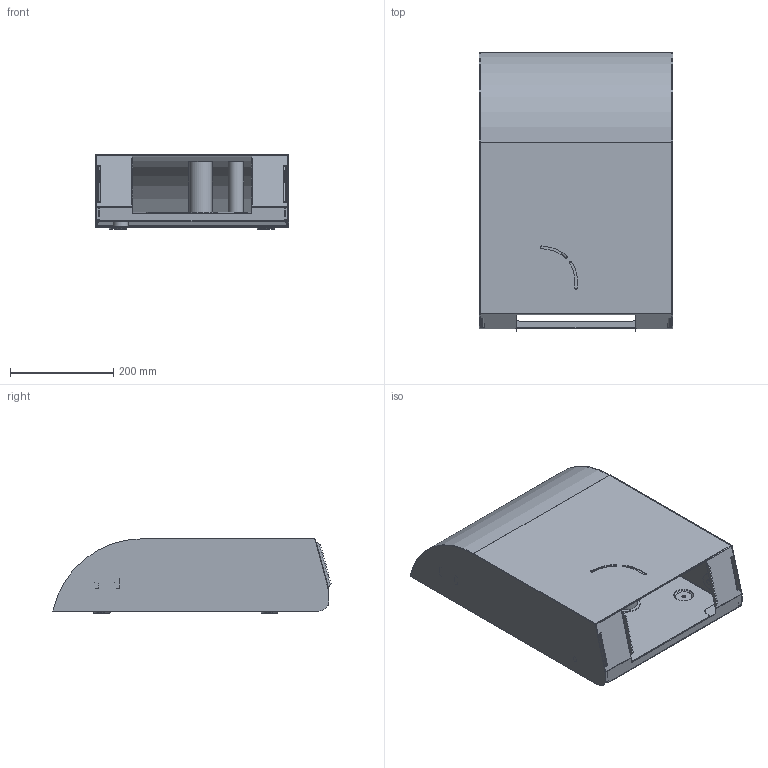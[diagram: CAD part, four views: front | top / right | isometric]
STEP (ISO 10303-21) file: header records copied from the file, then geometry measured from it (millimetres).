
FILE_DESCRIPTION((''),'2;1');
FILE_NAME('X:\Standardvarer\Toiletpapirholdere\289 DAN DRYER DESIGN toiletpapirholder 1 jumbo + 1 std rl\Tegninger\Inventor 3D\289 DAN DRYER DESIGN toilet paper dispenser.stp','2012-03-27T13:53:53',('Dan Dryer'),(''),'Autodesk Inventor 2011','Autodesk Inventor 2011','');
FILE_SCHEMA(('AUTOMOTIVE_DESIGN { 1 0 10303 214 1 1 1 1 }'));
Length unit declared in the file: millimetre
Products named in the file (15): DD-010811-01 - slet; DD-010811-20; DD-010811-21; DD-010811-60; DD-010811-50; DD-010811-51; DD-010811-52; DD-010811-53; DD-010811-54; DD-010811-10; DD-010811-11; DD-010811-13; DD-010811-12; DD-010811-14; DD-291107-50
Assembly tree (15 placements, depth 3):
  DD-010811-01 - slet
    DD-010811-20
      DD-010811-21
      DD-010811-60
    DD-010811-50
      DD-010811-51
      DD-010811-52
      DD-010811-53
      DD-010811-54
    DD-010811-10
      DD-010811-11
      DD-010811-13
      DD-010811-12
      DD-010811-14  x2
      DD-291107-50
Bounding box: 375 x 539.32 x 144.18 mm (x, y, z)
Volume: 1154341.8 mm3; surface area: 1405717.6 mm2
Topology: 12 solids, 12 shells, 489 faces, 1292 edges, 841 vertices
Faces by surface type: plane 271, cylinder 186, cone 20, torus 12
Full cylindrical faces by diameter (mm): 4.917 x1, 7 x6, 8.2 x4, 8.3 x1, 10 x2, 10.1 x2, 12 x1, 16 x2, 20 x2, 20.1 x1, 25 x2, 30 x2, 30.1 x1, 40 x1, 42 x1, 45 x1, 45.1 x1
Entity records: 15289 total; most frequent: DIRECTION 2668, CARTESIAN_POINT 2574, ORIENTED_EDGE 2446, EDGE_CURVE 1223, AXIS2_PLACEMENT_3D 929, VERTEX_POINT 835, VECTOR 810, LINE 810
